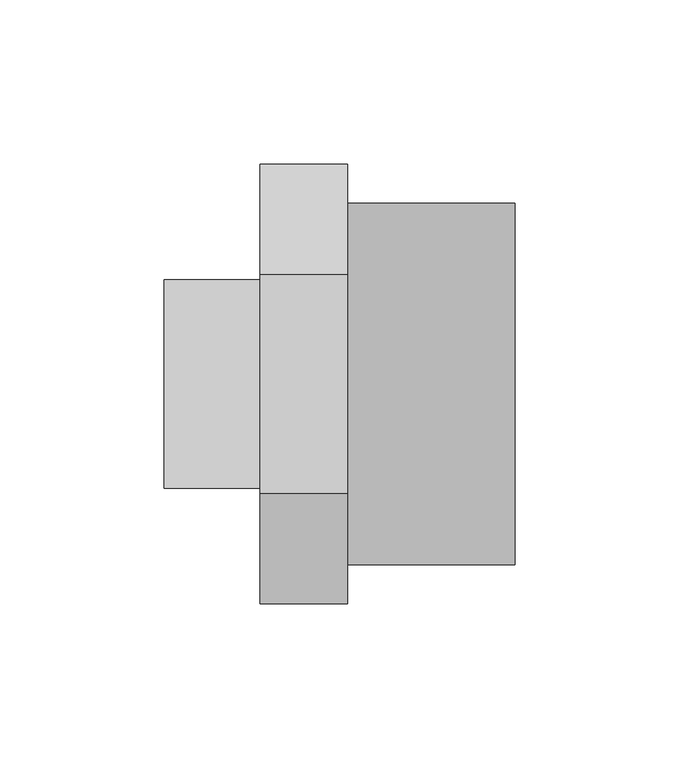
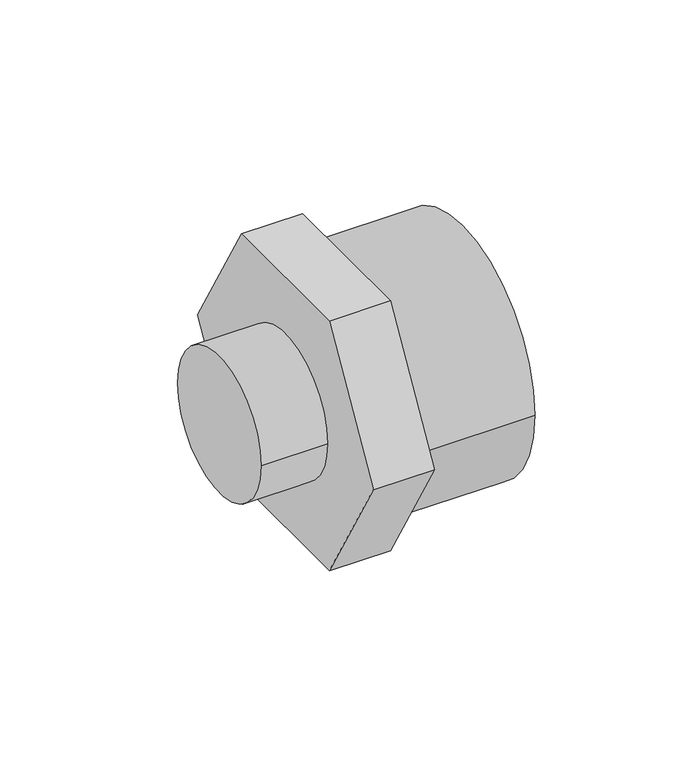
"""IFC4 building model written with IfcOpenShell, lengths in millimetres: pipe fitting geometry, 01101081 : Manguitos multiplos H/M/M."""

from ifc_helpers import new_model, si_unit, point, frame, origin, origin_2d, place, context, project, spatial, polyline, circle_curve, trimmed, segment, composite_curve, outline, extrude, source, transform, mapped, element, save


def pipe_fitting_31f3ebe9(model_context):
    return source(origin(), model_context, "Body", "SweptSolid", [
        extrude(outline(composite_curve([segment(trimmed(circle_curve(origin_2d(), 31.75), [point((31.75, 0.0))], [point((-31.75, 0.0))], False, "CARTESIAN"), True, "CONTINUOUS"), segment(trimmed(circle_curve(origin_2d(), 31.75), [point((-31.75, 0.0))], [point((31.75, 0.0))], False, "CARTESIAN"), True, "CONTINUOUS")], self_intersect=False)), frame((0.0, 0.0, 0.0), z_axis=(1.0, 0.0, 0.0), x_axis=(0.0, 1.0, 0.0)), (0.0, 0.0, 1.0), 29.25),
        extrude(outline(polyline([(-33.4863156, 58.0), (33.4863156, 58.0), (66.9726312, 0.0), (33.4863156, -58.0), (-33.4863156, -58.0), (-66.9726312, 0.0), (-33.4863156, 58.0)])), frame((29.25, 0.0, 0.0), z_axis=(1.0, 0.0, 0.0), x_axis=(0.0, 1.0, 0.0)), (0.0, 0.0, 1.0), 26.75),
        extrude(outline(composite_curve([segment(trimmed(circle_curve(origin_2d(), 55.0), [point((-55.0, 0.0))], [point((55.0, 0.0))], False, "CARTESIAN"), True, "CONTINUOUS"), segment(trimmed(circle_curve(origin_2d(), 55.0), [point((55.0, 0.0))], [point((-55.0, 0.0))], False, "CARTESIAN"), True, "CONTINUOUS")], self_intersect=False)), frame((56.0, 0.0, 0.0), z_axis=(1.0, 0.0, 0.0), x_axis=(0.0, 1.0, 0.0)), (0.0, 0.0, 1.0), 51.0),
    ])


if __name__ == "__main__":
    model = new_model("IFC4")
    model_context = context("Model", 3, world=origin())
    ifc_project = project(units=[si_unit("LENGTHUNIT", "METRE", prefix="MILLI")], contexts=[model_context])
    site = spatial("IfcSite", under=ifc_project)
    building = spatial("IfcBuilding", under=site)
    placement = place(None, origin())
    pipe_fitting_shape = pipe_fitting_31f3ebe9(model_context)
    element("IfcPipeFitting", 1, ObjectType="01101081 : Manguitos multiplos H/M/M", at=placement, inside=building, context=model_context, shape_type="MappedRepresentation", body=[
        mapped(pipe_fitting_shape, transform((0.0, 0.0, 0.0), x_axis=(1.0, 0.0, 0.0), y_axis=(0.0, 1.0, 0.0), z_axis=(0.0, 0.0, 1.0))),
    ])
    save(model, "model.ifc")
